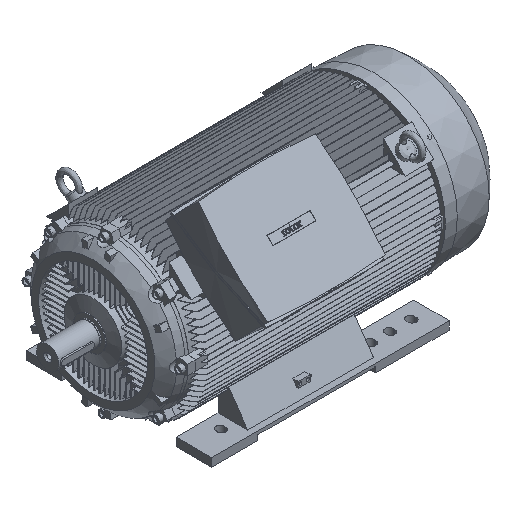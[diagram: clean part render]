
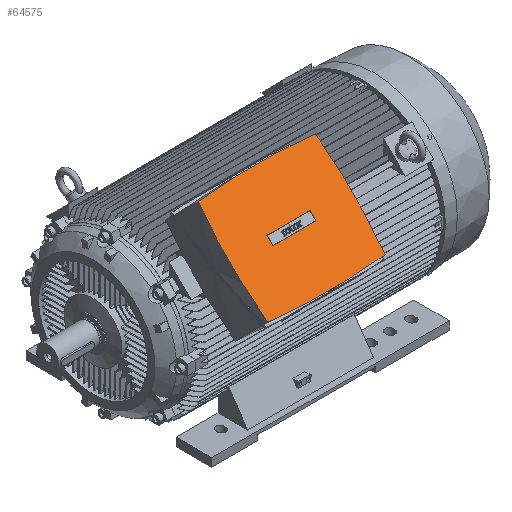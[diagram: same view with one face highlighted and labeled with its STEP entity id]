
A CAD part, isometric view. The second image highlights one B-rep face of the part: STEP entity #64575.
In plain terms, the highlighted planar face has unit normal (0, -0.707, 0.707).
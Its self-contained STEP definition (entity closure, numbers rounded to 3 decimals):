
#1084 = CARTESIAN_POINT ( 'NONE',  ( 260., -2599.975, -1670.837 ) ) ;
#1195 = DIRECTION ( 'NONE',  ( 0., -0.707, 0.707 ) ) ;
#4148 = DIRECTION ( 'NONE',  ( 0., 0.707, 0.707 ) ) ;
#4798 = AXIS2_PLACEMENT_3D ( 'NONE', #95653, #50449, #5413 ) ;
#5217 = EDGE_CURVE ( 'NONE', #62200, #61314, #47466, .T. ) ;
#5413 = DIRECTION ( 'NONE',  ( 0., -0.707, -0.707 ) ) ;
#6829 = ORIENTED_EDGE ( 'NONE', *, *, #67204, .T. ) ;
#7674 = EDGE_CURVE ( 'NONE', #24913, #52471, #17227, .T. ) ;
#8613 = DIRECTION ( 'NONE',  ( 0., 0.707, 0.707 ) ) ;
#9922 = VERTEX_POINT ( 'NONE', #56270 ) ;
#9934 = LINE ( 'NONE', #35549, #47579 ) ;
#12251 = VERTEX_POINT ( 'NONE', #26727 ) ;
#16578 = DIRECTION ( 'NONE',  ( 0., -0.707, 0.707 ) ) ;
#17227 = LINE ( 'NONE', #30645, #74964 ) ;
#22373 = CIRCLE ( 'NONE', #95777, 1914. ) ;
#22809 = ORIENTED_EDGE ( 'NONE', *, *, #32197, .T. ) ;
#24913 = VERTEX_POINT ( 'NONE', #54420 ) ;
#25928 = EDGE_CURVE ( 'NONE', #12251, #9922, #35427, .T. ) ;
#26727 = CARTESIAN_POINT ( 'NONE',  ( 13.785, -632.179, 296.96 ) ) ;
#26799 = CARTESIAN_POINT ( 'NONE',  ( 13.785, -338.679, 590.459 ) ) ;
#28820 = CARTESIAN_POINT ( 'NONE',  ( 350., -485.429, 443.71 ) ) ;
#30645 = CARTESIAN_POINT ( 'NONE',  ( 260., -473.054, 456.084 ) ) ;
#31623 = ORIENTED_EDGE ( 'NONE', *, *, #79329, .T. ) ;
#32125 = EDGE_CURVE ( 'NONE', #52471, #80944, #88358, .T. ) ;
#32197 = EDGE_CURVE ( 'NONE', #61314, #12251, #22373, .T. ) ;
#32577 = AXIS2_PLACEMENT_3D ( 'NONE', #94368, #49200, #4148 ) ;
#32710 = FACE_OUTER_BOUND ( 'NONE', #97153, .T. ) ;
#35427 = CIRCLE ( 'NONE', #32577, 3207.42 ) ;
#35549 = CARTESIAN_POINT ( 'NONE',  ( 260., -497.803, 431.335 ) ) ;
#37007 = LINE ( 'NONE', #55812, #44099 ) ;
#38226 = DIRECTION ( 'NONE',  ( 1., 0., 0. ) ) ;
#41407 = EDGE_LOOP ( 'NONE', ( #91849, #80799, #46940, #31623 ) ) ;
#44099 = VECTOR ( 'NONE', #78883, 1000. ) ;
#44981 = CARTESIAN_POINT ( 'NONE',  ( 506.215, -338.679, 590.459 ) ) ;
#46220 = CARTESIAN_POINT ( 'NONE',  ( 1916.5, -485.429, 443.71 ) ) ;
#46940 = ORIENTED_EDGE ( 'NONE', *, *, #49119, .T. ) ;
#47466 = CIRCLE ( 'NONE', #86004, 3207.42 ) ;
#47579 = VECTOR ( 'NONE', #96178, 1000. ) ;
#48072 = ORIENTED_EDGE ( 'NONE', *, *, #25928, .T. ) ;
#49119 = EDGE_CURVE ( 'NONE', #80944, #97680, #9934, .T. ) ;
#49200 = DIRECTION ( 'NONE',  ( 0., -0.707, 0.707 ) ) ;
#49892 = CARTESIAN_POINT ( 'NONE',  ( 350., -473.054, 456.084 ) ) ;
#50449 = DIRECTION ( 'NONE',  ( 0., -0.707, 0.707 ) ) ;
#51843 = DIRECTION ( 'NONE',  ( 0., -0.707, -0.707 ) ) ;
#52471 = VERTEX_POINT ( 'NONE', #49892 ) ;
#53362 = CIRCLE ( 'NONE', #57412, 1914. ) ;
#53701 = DIRECTION ( 'NONE',  ( 0., -0.707, 0.707 ) ) ;
#53823 = DIRECTION ( 'NONE',  ( 0., 0.707, 0.707 ) ) ;
#54420 = CARTESIAN_POINT ( 'NONE',  ( 170., -473.054, 456.084 ) ) ;
#55812 = CARTESIAN_POINT ( 'NONE',  ( 170., -485.429, 443.71 ) ) ;
#56270 = CARTESIAN_POINT ( 'NONE',  ( 506.215, -632.179, 296.96 ) ) ;
#57412 = AXIS2_PLACEMENT_3D ( 'NONE', #61679, #16578, #69246 ) ;
#57728 = PLANE ( 'NONE',  #4798 ) ;
#61314 = VERTEX_POINT ( 'NONE', #26799 ) ;
#61679 = CARTESIAN_POINT ( 'NONE',  ( -1396.5, -485.429, 443.71 ) ) ;
#62200 = VERTEX_POINT ( 'NONE', #44981 ) ;
#64575 = ADVANCED_FACE ( 'NONE', ( #32710, #70432 ), #57728, .T. ) ;
#65983 = VECTOR ( 'NONE', #51843, 1000. ) ;
#67204 = EDGE_CURVE ( 'NONE', #9922, #62200, #53362, .T. ) ;
#68320 = CARTESIAN_POINT ( 'NONE',  ( 350., -497.803, 431.335 ) ) ;
#69246 = DIRECTION ( 'NONE',  ( 0., 0.707, 0.707 ) ) ;
#70432 = FACE_BOUND ( 'NONE', #41407, .T. ) ;
#74964 = VECTOR ( 'NONE', #38226, 1000. ) ;
#78092 = ORIENTED_EDGE ( 'NONE', *, *, #5217, .T. ) ;
#78883 = DIRECTION ( 'NONE',  ( 0., 0.707, 0.707 ) ) ;
#79329 = EDGE_CURVE ( 'NONE', #97680, #24913, #37007, .T. ) ;
#80799 = ORIENTED_EDGE ( 'NONE', *, *, #32125, .T. ) ;
#80944 = VERTEX_POINT ( 'NONE', #68320 ) ;
#86004 = AXIS2_PLACEMENT_3D ( 'NONE', #1084, #53701, #8613 ) ;
#88358 = LINE ( 'NONE', #28820, #65983 ) ;
#90295 = CARTESIAN_POINT ( 'NONE',  ( 170., -497.803, 431.335 ) ) ;
#91849 = ORIENTED_EDGE ( 'NONE', *, *, #7674, .T. ) ;
#94368 = CARTESIAN_POINT ( 'NONE',  ( 260., 1629.117, 2558.256 ) ) ;
#95653 = CARTESIAN_POINT ( 'NONE',  ( 260., -485.429, 443.71 ) ) ;
#95777 = AXIS2_PLACEMENT_3D ( 'NONE', #46220, #1195, #53823 ) ;
#96178 = DIRECTION ( 'NONE',  ( -1., 0., 0. ) ) ;
#97153 = EDGE_LOOP ( 'NONE', ( #78092, #22809, #48072, #6829 ) ) ;
#97680 = VERTEX_POINT ( 'NONE', #90295 ) ;
